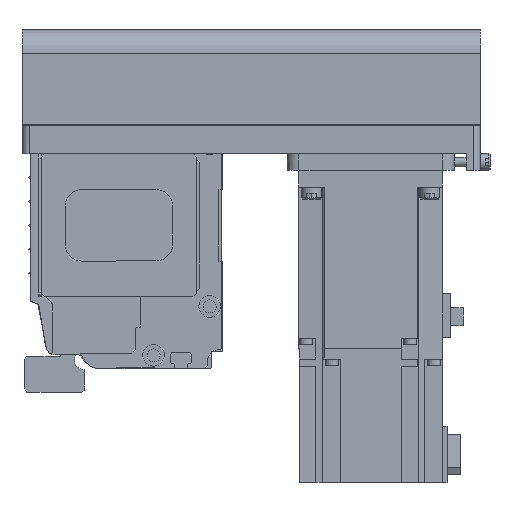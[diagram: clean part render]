
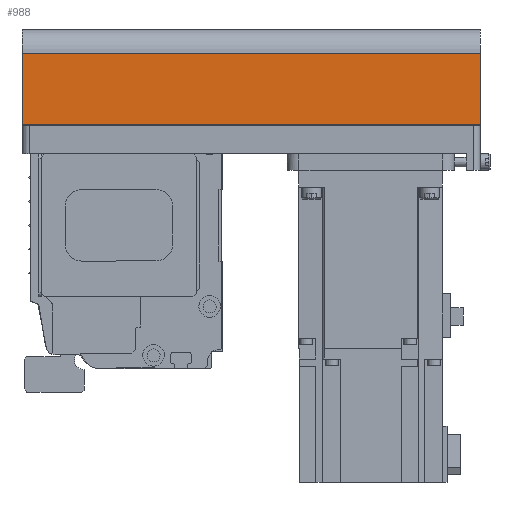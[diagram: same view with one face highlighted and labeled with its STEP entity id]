
A CAD part, left-side view. The second image highlights one B-rep face of the part: STEP entity #988.
In plain terms, the highlighted planar face has unit normal (-1, 0, 0) as drawn and (0, -1, 0) by its records, which use the part's own axes.
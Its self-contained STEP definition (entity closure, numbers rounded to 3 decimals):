
#988 = ADVANCED_FACE( '', ( #2591 ), #2592, .T. );
#2591 = FACE_OUTER_BOUND( '', #5055, .T. );
#2592 = PLANE( '', #5056 );
#5055 = EDGE_LOOP( '', ( #7731, #7732, #7733, #7734 ) );
#5056 = AXIS2_PLACEMENT_3D( '', #7735, #7736, #7737 );
#7731 = ORIENTED_EDGE( '', *, *, #14106, .F. );
#7732 = ORIENTED_EDGE( '', *, *, #14107, .F. );
#7733 = ORIENTED_EDGE( '', *, *, #14108, .T. );
#7734 = ORIENTED_EDGE( '', *, *, #14109, .T. );
#7735 = CARTESIAN_POINT( '', ( -192., -40., -12.1 ) );
#7736 = DIRECTION( '', ( 0., -1., 0. ) );
#7737 = DIRECTION( '', ( 0., 0., -1. ) );
#14106 = EDGE_CURVE( '', #16383, #16806, #16807, .T. );
#14107 = EDGE_CURVE( '', #16808, #16383, #16809, .T. );
#14108 = EDGE_CURVE( '', #16808, #16810, #16811, .T. );
#14109 = EDGE_CURVE( '', #16810, #16806, #16812, .T. );
#16383 = VERTEX_POINT( '', #20105 );
#16806 = VERTEX_POINT( '', #20640 );
#16807 = LINE( '', #20641, #20642 );
#16808 = VERTEX_POINT( '', #20643 );
#16809 = LINE( '', #20644, #20645 );
#16810 = VERTEX_POINT( '', #20646 );
#16811 = LINE( '', #20647, #20648 );
#16812 = LINE( '', #20649, #20650 );
#20105 = CARTESIAN_POINT( '', ( 0., -40., -12.1 ) );
#20640 = CARTESIAN_POINT( '', ( 0., -40., -42. ) );
#20641 = CARTESIAN_POINT( '', ( 0., -40., -12.1 ) );
#20642 = VECTOR( '', #25405, 1000. );
#20643 = CARTESIAN_POINT( '', ( -192., -40., -12.1 ) );
#20644 = CARTESIAN_POINT( '', ( -192., -40., -12.1 ) );
#20645 = VECTOR( '', #25406, 1000. );
#20646 = CARTESIAN_POINT( '', ( -192., -40., -42. ) );
#20647 = CARTESIAN_POINT( '', ( -192., -40., -12.1 ) );
#20648 = VECTOR( '', #25407, 1000. );
#20649 = CARTESIAN_POINT( '', ( -192., -40., -42. ) );
#20650 = VECTOR( '', #25408, 1000. );
#25405 = DIRECTION( '', ( 0., 0., -1. ) );
#25406 = DIRECTION( '', ( 1., 0., 0. ) );
#25407 = DIRECTION( '', ( 0., 0., -1. ) );
#25408 = DIRECTION( '', ( 1., 0., 0. ) );
